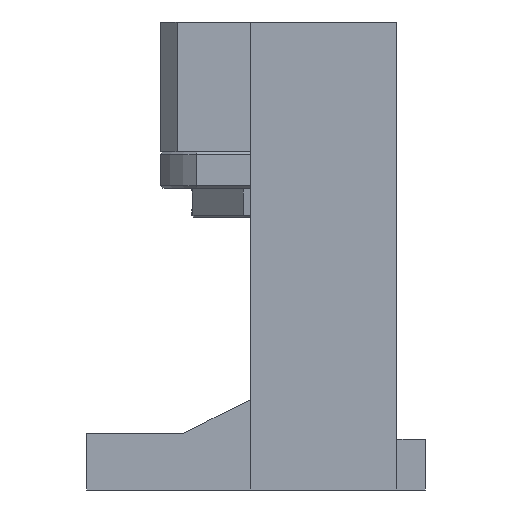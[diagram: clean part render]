
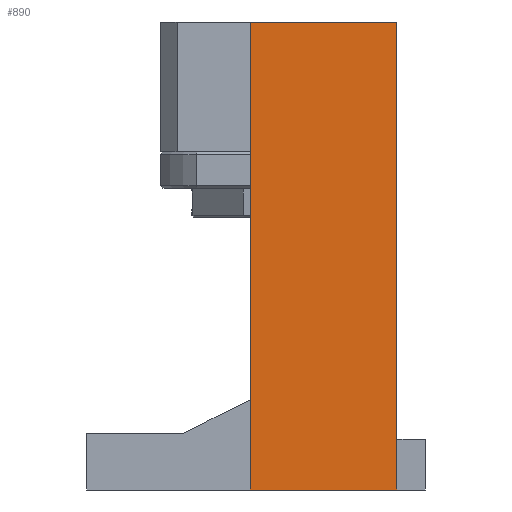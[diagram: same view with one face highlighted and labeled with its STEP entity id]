
A CAD part, left-side view. The second image highlights one B-rep face of the part: STEP entity #890.
In plain terms, the highlighted planar face has unit normal (-1, 0, 0).
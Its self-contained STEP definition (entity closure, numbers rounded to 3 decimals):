
#467 = CARTESIAN_POINT ( 'NONE',  ( -35., -25., -18. ) ) ;
#479 = EDGE_CURVE ( 'NONE', #7683, #7423, #1793, .T. ) ;
#536 = ORIENTED_EDGE ( 'NONE', *, *, #6974, .T. ) ;
#553 = VECTOR ( 'NONE', #1748, 1000. ) ;
#653 = ORIENTED_EDGE ( 'NONE', *, *, #479, .F. ) ;
#890 = ADVANCED_FACE ( 'NONE', ( #7322 ), #4035, .T. ) ;
#1433 = ORIENTED_EDGE ( 'NONE', *, *, #5120, .F. ) ;
#1524 = LINE ( 'NONE', #467, #3046 ) ;
#1748 = DIRECTION ( 'NONE',  ( 0., -1., 0. ) ) ;
#1793 = LINE ( 'NONE', #1937, #6365 ) ;
#1937 = CARTESIAN_POINT ( 'NONE',  ( -35., 1., -18. ) ) ;
#2368 = LINE ( 'NONE', #6070, #553 ) ;
#3046 = VECTOR ( 'NONE', #7446, 1000. ) ;
#3140 = CARTESIAN_POINT ( 'NONE',  ( -35., 1., -78. ) ) ;
#3540 = VERTEX_POINT ( 'NONE', #4705 ) ;
#3835 = DIRECTION ( 'NONE',  ( -1., 0., 0. ) ) ;
#3917 = DIRECTION ( 'NONE',  ( 0., -1., 0. ) ) ;
#4035 = PLANE ( 'NONE',  #5642 ) ;
#4402 = DIRECTION ( 'NONE',  ( 0., 0., 1. ) ) ;
#4403 = ORIENTED_EDGE ( 'NONE', *, *, #6658, .T. ) ;
#4599 = CARTESIAN_POINT ( 'NONE',  ( -35., 1., 5. ) ) ;
#4703 = CARTESIAN_POINT ( 'NONE',  ( -35., 1., -18. ) ) ;
#4705 = CARTESIAN_POINT ( 'NONE',  ( -35., -25., 5. ) ) ;
#5120 = EDGE_CURVE ( 'NONE', #7423, #3540, #2368, .T. ) ;
#5315 = DIRECTION ( 'NONE',  ( 0., -1., 0. ) ) ;
#5642 = AXIS2_PLACEMENT_3D ( 'NONE', #4703, #3835, #3917 ) ;
#5823 = LINE ( 'NONE', #7127, #6009 ) ;
#6009 = VECTOR ( 'NONE', #5315, 1000. ) ;
#6070 = CARTESIAN_POINT ( 'NONE',  ( -35., 1., 5. ) ) ;
#6365 = VECTOR ( 'NONE', #4402, 1000. ) ;
#6501 = CARTESIAN_POINT ( 'NONE',  ( -35., -25., -78. ) ) ;
#6658 = EDGE_CURVE ( 'NONE', #7952, #3540, #1524, .T. ) ;
#6974 = EDGE_CURVE ( 'NONE', #7683, #7952, #5823, .T. ) ;
#7127 = CARTESIAN_POINT ( 'NONE',  ( -35., -30., -78. ) ) ;
#7322 = FACE_OUTER_BOUND ( 'NONE', #7396, .T. ) ;
#7396 = EDGE_LOOP ( 'NONE', ( #536, #4403, #1433, #653 ) ) ;
#7423 = VERTEX_POINT ( 'NONE', #4599 ) ;
#7446 = DIRECTION ( 'NONE',  ( 0., 0., 1. ) ) ;
#7683 = VERTEX_POINT ( 'NONE', #3140 ) ;
#7952 = VERTEX_POINT ( 'NONE', #6501 ) ;
